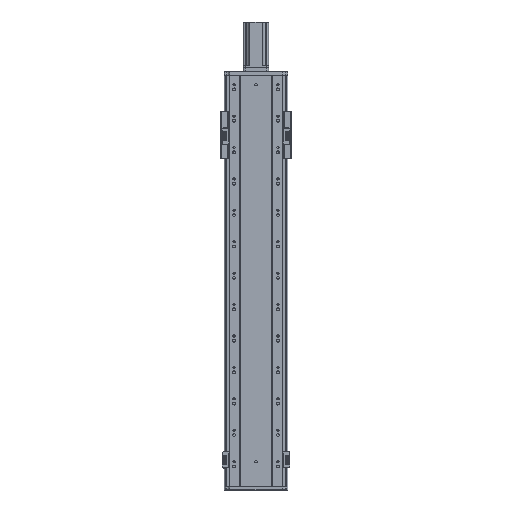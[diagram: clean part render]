
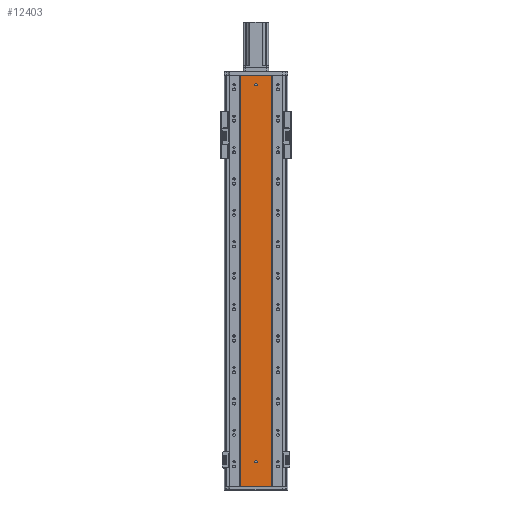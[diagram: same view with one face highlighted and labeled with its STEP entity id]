
A CAD part, front view. The second image highlights one B-rep face of the part: STEP entity #12403.
In plain terms, the highlighted planar face has unit normal (0, -1, 0).
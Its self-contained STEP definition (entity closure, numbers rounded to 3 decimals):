
#11 = FACE_OUTER_BOUND ( 'NONE', #27472, .T. ) ;
#55 = FACE_BOUND ( 'NONE', #27479, .T. ) ;
#2111 = CARTESIAN_POINT ( 'NONE',  ( 136.47, 79.476, 76. ) ) ;
#2238 = CARTESIAN_POINT ( 'NONE',  ( 136.47, 79.476, 1284. ) ) ;
#2253 = CARTESIAN_POINT ( 'NONE',  ( 136.47, 79.476, 84. ) ) ;
#2267 = CARTESIAN_POINT ( 'NONE',  ( 136.47, 79.476, 1276. ) ) ;
#4276 = VERTEX_POINT ( 'NONE', #5256 ) ;
#4357 = VERTEX_POINT ( 'NONE', #5398 ) ;
#4361 = VERTEX_POINT ( 'NONE', #5370 ) ;
#4363 = VERTEX_POINT ( 'NONE', #5399 ) ;
#5256 = CARTESIAN_POINT ( 'NONE',  ( 185.97, 79.476, 0. ) ) ;
#5370 = CARTESIAN_POINT ( 'NONE',  ( 185.97, 79.476, 1310. ) ) ;
#5398 = CARTESIAN_POINT ( 'NONE',  ( 86.97, 79.476, 1310. ) ) ;
#5399 = CARTESIAN_POINT ( 'NONE',  ( 86.97, 79.476, 0. ) ) ;
#9715 = DIRECTION ( 'NONE',  ( 0., 0., -1. ) ) ;
#9730 = CARTESIAN_POINT ( 'NONE',  ( 136.47, 79.476, 80. ) ) ;
#9750 = DIRECTION ( 'NONE',  ( 0., -1., 0. ) ) ;
#9924 = CARTESIAN_POINT ( 'NONE',  ( 136.47, 79.476, 1280. ) ) ;
#9936 = DIRECTION ( 'NONE',  ( 0., 0., -1. ) ) ;
#9947 = DIRECTION ( 'NONE',  ( 0., -1., 0. ) ) ;
#12403 = ADVANCED_FACE ( 'NONE', ( #19625, #55, #11 ), #34747, .F. ) ;
#14296 = CIRCLE ( 'NONE', #40022, 4. ) ;
#14451 = CIRCLE ( 'NONE', #39973, 4. ) ;
#15631 = AXIS2_PLACEMENT_3D ( 'NONE', #27048, #27049, #27052 ) ;
#15647 = AXIS2_PLACEMENT_3D ( 'NONE', #27006, #27017, #27007 ) ;
#19625 = FACE_BOUND ( 'NONE', #27462, .T. ) ;
#22635 = ORIENTED_EDGE ( 'NONE', *, *, #40482, .F. ) ;
#22651 = ORIENTED_EDGE ( 'NONE', *, *, #30050, .F. ) ;
#22653 = ORIENTED_EDGE ( 'NONE', *, *, #40474, .F. ) ;
#22657 = ORIENTED_EDGE ( 'NONE', *, *, #40475, .F. ) ;
#23906 = VERTEX_POINT ( 'NONE', #2111 ) ;
#23914 = VERTEX_POINT ( 'NONE', #2253 ) ;
#23916 = VERTEX_POINT ( 'NONE', #2267 ) ;
#23943 = VERTEX_POINT ( 'NONE', #2238 ) ;
#26909 = CARTESIAN_POINT ( 'NONE',  ( 86.97, 79.476, 1310. ) ) ;
#26921 = CARTESIAN_POINT ( 'NONE',  ( 86.97, 79.476, 436.667 ) ) ;
#26923 = CARTESIAN_POINT ( 'NONE',  ( 86.97, 79.476, 0. ) ) ;
#26931 = CARTESIAN_POINT ( 'NONE',  ( 86.97, 79.476, 873.333 ) ) ;
#26932 = CARTESIAN_POINT ( 'NONE',  ( 0., 79.476, 0. ) ) ;
#26934 = DIRECTION ( 'NONE',  ( 1., 0., 0. ) ) ;
#26994 = CARTESIAN_POINT ( 'NONE',  ( 185.97, 79.476, 873.333 ) ) ;
#26998 = CARTESIAN_POINT ( 'NONE',  ( 0., 79.476, 1310. ) ) ;
#27003 = CARTESIAN_POINT ( 'NONE',  ( 185.97, 79.476, 0. ) ) ;
#27006 = CARTESIAN_POINT ( 'NONE',  ( 136.47, 79.476, 1280. ) ) ;
#27007 = DIRECTION ( 'NONE',  ( 0., 0., -1. ) ) ;
#27017 = DIRECTION ( 'NONE',  ( 0., -1., 0. ) ) ;
#27022 = CARTESIAN_POINT ( 'NONE',  ( 185.97, 79.476, 1310. ) ) ;
#27025 = CARTESIAN_POINT ( 'NONE',  ( 185.97, 79.476, 436.667 ) ) ;
#27027 = DIRECTION ( 'NONE',  ( 1., 0., 0. ) ) ;
#27048 = CARTESIAN_POINT ( 'NONE',  ( 136.47, 79.476, 80. ) ) ;
#27049 = DIRECTION ( 'NONE',  ( 0., -1., 0. ) ) ;
#27052 = DIRECTION ( 'NONE',  ( 0., 0., -1. ) ) ;
#27462 = EDGE_LOOP ( 'NONE', ( #22653, #42467 ) ) ;
#27472 = EDGE_LOOP ( 'NONE', ( #42445, #22657, #22635, #42452 ) ) ;
#27479 = EDGE_LOOP ( 'NONE', ( #42462, #22651 ) ) ;
#30050 = EDGE_CURVE ( 'NONE', #23914, #23906, #14296, .T. ) ;
#30081 = EDGE_CURVE ( 'NONE', #23943, #23916, #14451, .T. ) ;
#34712 = CARTESIAN_POINT ( 'NONE',  ( 0., 79.476, 1310. ) ) ;
#34747 = PLANE ( 'NONE',  #38779 ) ;
#34748 = DIRECTION ( 'NONE',  ( 0., 1., 0. ) ) ;
#34749 = DIRECTION ( 'NONE',  ( 0., 0., 1. ) ) ;
#38779 = AXIS2_PLACEMENT_3D ( 'NONE', #34712, #34748, #34749 ) ;
#39973 = AXIS2_PLACEMENT_3D ( 'NONE', #9924, #9947, #9936 ) ;
#40022 = AXIS2_PLACEMENT_3D ( 'NONE', #9730, #9750, #9715 ) ;
#40425 = EDGE_CURVE ( 'NONE', #4357, #4363, #42906, .T. ) ;
#40433 = EDGE_CURVE ( 'NONE', #4363, #4276, #44637, .T. ) ;
#40474 = EDGE_CURVE ( 'NONE', #23916, #23943, #44692, .T. ) ;
#40475 = EDGE_CURVE ( 'NONE', #4361, #4276, #42912, .T. ) ;
#40482 = EDGE_CURVE ( 'NONE', #4357, #4361, #44701, .T. ) ;
#40483 = EDGE_CURVE ( 'NONE', #23906, #23914, #44735, .T. ) ;
#42445 = ORIENTED_EDGE ( 'NONE', *, *, #40433, .T. ) ;
#42452 = ORIENTED_EDGE ( 'NONE', *, *, #40425, .T. ) ;
#42462 = ORIENTED_EDGE ( 'NONE', *, *, #40483, .F. ) ;
#42467 = ORIENTED_EDGE ( 'NONE', *, *, #30081, .F. ) ;
#42906 = B_SPLINE_CURVE_WITH_KNOTS ( 'NONE', 3,
 ( #26909, #26931, #26921, #26923 ),
 .UNSPECIFIED., .F., .F.,
 ( 4, 4 ),
 ( 0., 1. ),
 .UNSPECIFIED. ) ;
#42912 = B_SPLINE_CURVE_WITH_KNOTS ( 'NONE', 3,
 ( #27022, #26994, #27025, #27003 ),
 .UNSPECIFIED., .F., .F.,
 ( 4, 4 ),
 ( 0., 1. ),
 .UNSPECIFIED. ) ;
#44633 = VECTOR ( 'NONE', #26934, 1000. ) ;
#44637 = LINE ( 'NONE', #26932, #44633 ) ;
#44692 = CIRCLE ( 'NONE', #15647, 4. ) ;
#44701 = LINE ( 'NONE', #26998, #44702 ) ;
#44702 = VECTOR ( 'NONE', #27027, 1000. ) ;
#44735 = CIRCLE ( 'NONE', #15631, 4. ) ;
